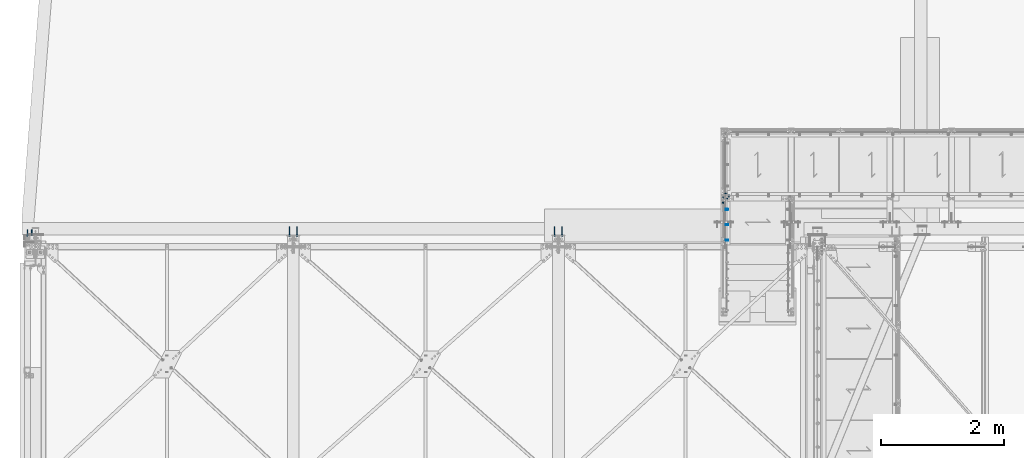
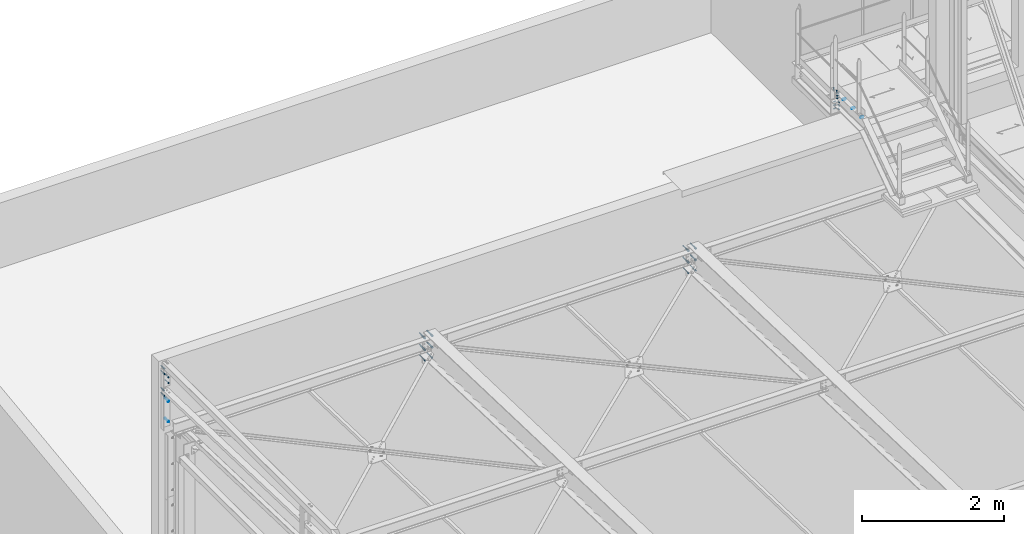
# One storey, part 179 of 362: 15 mechanical fasteners.
"""IFC2X3 building model written with IfcOpenShell, lengths in millimetres."""

from ifc_helpers import new_model, si_unit, frame, frame_2d, origin_with_axes, origin_2d_with_axis, place, context, subcontext, project, spatial, polyline, circle_curve, parameter, trimmed, segment, composite_curve, circle, outline, extrude, source, transform, mapped, material, type_object, element, save


model = new_model("IFC2X3")

# Units and contexts
model_context = context("Model", 3, precision=1e-05, world=origin_with_axes())
body_context = subcontext(model_context, "Body", "Model", "MODEL_VIEW")
ifc_project = project(units=[si_unit("LENGTHUNIT", "METRE", prefix="MILLI"), si_unit("AREAUNIT", "SQUARE_METRE"), si_unit("VOLUMEUNIT", "CUBIC_METRE"), si_unit("MASSUNIT", "GRAM", prefix="KILO"), si_unit("TIMEUNIT", "SECOND"), si_unit("PLANEANGLEUNIT", "RADIAN"), si_unit("SOLIDANGLEUNIT", "STERADIAN"), si_unit("THERMODYNAMICTEMPERATUREUNIT", "DEGREE_CELSIUS"), si_unit("LUMINOUSINTENSITYUNIT", "LUMEN")], contexts=[model_context])

# Site, building, storey
site_placement = place(None, origin_with_axes())
site = spatial("IfcSite", under=ifc_project, at=site_placement, Name="Undefined", CompositionType="ELEMENT")
building_placement = place(site_placement, origin_with_axes())
building = spatial("IfcBuilding", under=site, at=building_placement, Name="Undefined", CompositionType="ELEMENT")
storey_placement = place(building_placement, origin_with_axes())
storey = spatial("IfcBuildingStorey", under=building, at=storey_placement, Name="Undefined", CompositionType="ELEMENT", Elevation=0.0)

# Mechanical fasteners
ifc_material_1 = material(Name="8.8-SB-GALVA")
mechanical_fastener_type = type_object("IfcMechanicalFastenerType", Name="Bolt assembly")
shared_shape_1 = source(origin_with_axes(), body_context, "Body", "SweptSolid", [
    extrude(circle(Radius=7.0, at=origin_2d_with_axis()), frame((0.0, -0.100011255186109, 0.0), z_axis=(0.0, 1.0, 0.0), x_axis=(1.0, 0.0, 0.0)), (0.0, 0.0, 1.0), 12.9),
    extrude(outline(composite_curve([segment(polyline([(-7.0, 7.0), (7.0, 7.0)]), True, "CONTINUOUS"), segment(trimmed(circle_curve(frame_2d((7.0, 0.0), x_axis=(0.0, 1.0)), 7.0), [parameter(0.0)], [parameter(3.14159265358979)], False, "PARAMETER"), True, "CONTINUOUS"), segment(polyline([(7.0, -7.0), (-7.0, -7.0)]), True, "CONTINUOUS"), segment(trimmed(circle_curve(frame_2d((-7.0, 0.0), x_axis=(0.0, -1.0)), 7.0), [parameter(0.0)], [parameter(3.14159265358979)], False, "PARAMETER"), True, "DISCONTINUOUS")], self_intersect=False)), frame((0.0, -9.9, 0.0), z_axis=(0.0, 1.0, 0.0), x_axis=(1.0, 0.0, 0.0)), (0.0, 0.0, 1.0), 10.0),
    extrude(outline(polyline([(10.39230484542, 0.0), (5.19615242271, 9.00000000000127), (-5.19615242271, 9.00000000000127), (-10.39230484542, 0.0), (-5.19615242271, -9.00000000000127), (5.19615242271, -9.00000000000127), (10.39230484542, 0.0)])), frame((0.0, -21.88, 0.0), z_axis=(0.0, 1.0, 0.0), x_axis=(1.0, 0.0, 0.0)), (0.0, 0.0, 1.0), 7.92),
    extrude(circle(Radius=6.0, at=origin_2d_with_axis()), frame((0.0, -13.96, 0.0), z_axis=(0.0, 1.0, 0.0), x_axis=(1.0, 0.0, 0.0)), (0.0, 0.0, 1.0), 50.0),
    extrude(circle(Radius=10.8, at=origin_2d_with_axis()), frame((0.0, -13.96, 0.0), z_axis=(0.0, 1.0, 0.0), x_axis=(1.0, 0.0, 0.0)), (0.0, 0.0, 1.0), 3.96),
    extrude(outline(polyline([(11.5008173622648, 0.0), (5.7504086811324, 9.96000000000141), (-5.7504086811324, 9.96000000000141), (-11.5008173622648, 0.0), (-5.7504086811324, -9.96000000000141), (5.7504086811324, -9.96000000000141), (11.5008173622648, 0.0)])), frame((0.0, 12.7987010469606, 0.0), z_axis=(0.0, 1.0, 0.0), x_axis=(1.0, 0.0, 0.0)), (0.0, 0.0, 1.0), 7.92),
])
mechanical_fastener_1_placement = place(storey_placement, frame((11149.9863365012, 15914.9996531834, 8910.0), z_axis=(-1.0, 0.0, 0.0), x_axis=(0.0, 1.0, 0.0)))
element("IfcMechanicalFastener", 1, at=mechanical_fastener_1_placement, inside=storey, type_object=mechanical_fastener_type, material=ifc_material_1, Name="Bolt assembly", NominalDiameter=12.0, NominalLength=50.0, context=body_context, shape_type="MappedRepresentation", body=[
    mapped(shared_shape_1, transform((0.0, 0.0, 0.0))),
    mapped(shared_shape_1, transform((80.0, 0.0, 0.0))),
])
shared_shape_2 = source(origin_with_axes(), body_context, "Body", "SweptSolid", [
    extrude(circle(Radius=7.0, at=origin_2d_with_axis()), frame((0.0, -0.0998569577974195, 0.0), z_axis=(0.0, 1.0, 0.0), x_axis=(1.0, 0.0, 0.0)), (0.0, 0.0, 1.0), 10.1),
    extrude(circle(Radius=7.0, at=origin_2d_with_axis()), frame((0.0, -5.8999542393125, 0.0), z_axis=(0.0, 1.0, 0.0), x_axis=(1.0, 0.0, 0.0)), (0.0, 0.0, 1.0), 6.0),
    extrude(outline(polyline([(10.39230484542, 0.0), (5.19615242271, 9.00000000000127), (-5.19615242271, 9.00000000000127), (-10.39230484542, 0.0), (-5.19615242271, -9.00000000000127), (5.19615242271, -9.00000000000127), (10.39230484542, 0.0)])), frame((0.0, -13.9199542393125, 0.0), z_axis=(0.0, 1.0, 0.0), x_axis=(1.0, 0.0, 0.0)), (0.0, 0.0, 1.0), 7.92),
    extrude(circle(Radius=6.0, at=origin_2d_with_axis()), frame((0.0, -5.9999542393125, 0.0), z_axis=(0.0, 1.0, 0.0), x_axis=(1.0, 0.0, 0.0)), (0.0, 0.0, 1.0), 40.0),
    extrude(outline(polyline([(11.5008173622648, 0.0), (5.7504086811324, 9.96000000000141), (-5.7504086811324, 9.96000000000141), (-11.5008173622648, 0.0), (-5.7504086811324, -9.96000000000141), (5.7504086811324, -9.96000000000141), (11.5008173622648, 0.0)])), frame((0.0, 10.0001873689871, 0.0), z_axis=(0.0, 1.0, 0.0), x_axis=(1.0, 0.0, 0.0)), (0.0, 0.0, 1.0), 7.92),
])
mechanical_fastener_2_placement = place(storey_placement, frame((11210.0061851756, 16064.9864192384, 8570.0), z_axis=(0.0, 0.0, -1.0), x_axis=(0.0, -1.0, 0.0)))
element("IfcMechanicalFastener", 2, at=mechanical_fastener_2_placement, inside=storey, type_object=mechanical_fastener_type, material=ifc_material_1, Name="Bolt assembly", NominalDiameter=12.0, NominalLength=40.0, context=body_context, shape_type="MappedRepresentation", body=[
    mapped(shared_shape_2, transform((0.0, 0.0, 60.0))),
    mapped(shared_shape_2, transform((0.0, 0.0, 0.0))),
    mapped(shared_shape_2, transform((0.0, 0.0, -60.0))),
])
shared_shape_3 = source(origin_with_axes(), body_context, "Body", "SweptSolid", [
    extrude(circle(Radius=7.0, at=origin_2d_with_axis()), frame((0.0, -0.113418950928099, 0.0), z_axis=(0.0, 1.0, 0.0), x_axis=(1.0, 0.0, 0.0)), (0.0, 0.0, 1.0), 10.1),
    extrude(circle(Radius=7.0, at=origin_2d_with_axis()), frame((0.0, -5.8999542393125, 0.0), z_axis=(0.0, 1.0, 0.0), x_axis=(1.0, 0.0, 0.0)), (0.0, 0.0, 1.0), 6.0),
    extrude(outline(polyline([(10.39230484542, 0.0), (5.19615242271, 9.00000000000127), (-5.19615242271, 9.00000000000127), (-10.39230484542, 0.0), (-5.19615242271, -9.00000000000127), (5.19615242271, -9.00000000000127), (10.39230484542, 0.0)])), frame((0.0, -13.9199542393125, 0.0), z_axis=(0.0, 1.0, 0.0), x_axis=(1.0, 0.0, 0.0)), (0.0, 0.0, 1.0), 7.92),
    extrude(circle(Radius=6.0, at=origin_2d_with_axis()), frame((0.0, -5.9999542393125, 0.0), z_axis=(0.0, 1.0, 0.0), x_axis=(1.0, 0.0, 0.0)), (0.0, 0.0, 1.0), 40.0),
    extrude(outline(polyline([(11.5008173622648, 0.0), (5.7504086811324, 9.96000000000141), (-5.7504086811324, 9.96000000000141), (-11.5008173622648, 0.0), (-5.7504086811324, -9.96000000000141), (5.7504086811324, -9.96000000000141), (11.5008173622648, 0.0)])), frame((0.0, 9.9865810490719, 0.0), z_axis=(0.0, 1.0, 0.0), x_axis=(1.0, 0.0, 0.0)), (0.0, 0.0, 1.0), 7.92),
])
mechanical_fastener_3_placement = place(storey_placement, frame((11245.0061851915, 16029.9864192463, 8570.0), z_axis=(0.0, 0.0, 1.0), x_axis=(-1.0, 0.0, 0.0)))
element("IfcMechanicalFastener", 3, at=mechanical_fastener_3_placement, inside=storey, type_object=mechanical_fastener_type, material=ifc_material_1, Name="Bolt assembly", NominalDiameter=12.0, NominalLength=40.0, context=body_context, shape_type="MappedRepresentation", body=[
    mapped(shared_shape_3, transform((0.0, 0.0, 60.0))),
    mapped(shared_shape_3, transform((0.0, 0.0, 0.0))),
    mapped(shared_shape_3, transform((0.0, 0.0, -60.0))),
])
shared_shape_4 = source(origin_with_axes(), body_context, "Body", "SweptSolid", [
    extrude(circle(Radius=7.0, at=origin_2d_with_axis()), frame((0.0, -14.8962968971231, 0.0), z_axis=(0.0, 1.0, 0.0), x_axis=(1.0, 0.0, 0.0)), (0.0, 0.0, 1.0), 10.0),
    extrude(circle(Radius=7.0, at=origin_2d_with_axis()), frame((0.0, -5.09380520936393, 0.0), z_axis=(0.0, 1.0, 0.0), x_axis=(1.0, 0.0, 0.0)), (0.0, 0.0, 1.0), 5.1),
    extrude(outline(polyline([(10.39230484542, 0.0), (5.19615242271, 9.00000000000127), (-5.19615242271, 9.00000000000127), (-10.39230484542, 0.0), (-5.19615242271, -9.00000000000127), (5.19615242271, -9.00000000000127), (10.39230484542, 0.0)])), frame((0.0, -22.9162968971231, 0.0), z_axis=(0.0, 1.0, 0.0), x_axis=(1.0, 0.0, 0.0)), (0.0, 0.0, 1.0), 7.92),
    extrude(circle(Radius=6.0, at=origin_2d_with_axis()), frame((0.0, -14.9962968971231, 0.0), z_axis=(0.0, 1.0, 0.0), x_axis=(1.0, 0.0, 0.0)), (0.0, 0.0, 1.0), 30.0),
    extrude(outline(polyline([(11.5008173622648, 0.0), (5.7504086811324, 9.96000000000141), (-5.7504086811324, 9.96000000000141), (-11.5008173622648, 0.0), (-5.7504086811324, -9.96000000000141), (5.7504086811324, -9.96000000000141), (11.5008173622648, 0.0)])), frame((0.0, 0.00619479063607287, 0.0), z_axis=(0.0, 1.0, 0.0), x_axis=(1.0, 0.0, 0.0)), (0.0, 0.0, 1.0), 7.92),
])
mechanical_fastener_4_placement = place(storey_placement, frame((11214.9999903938, 15555.0058468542, 8820.0), z_axis=(0.0, 1.0, 0.0), x_axis=(0.0, 0.0, 1.0)))
element("IfcMechanicalFastener", 4, at=mechanical_fastener_4_placement, inside=storey, type_object=mechanical_fastener_type, material=ifc_material_1, Name="Bolt assembly", NominalDiameter=12.0, NominalLength=30.0, context=body_context, shape_type="MappedRepresentation", body=[
    mapped(shared_shape_4, transform((0.0, 0.0, -250.0))),
    mapped(shared_shape_4, transform((0.0, 0.0, 0.0))),
    mapped(shared_shape_4, transform((0.0, 0.0, 250.0))),
])
shared_shape_5 = source(origin_with_axes(), body_context, "Body", "SweptSolid", [
    extrude(circle(Radius=7.0, at=origin_2d_with_axis()), frame((0.0, -0.0962673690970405, 0.0), z_axis=(0.0, 1.0, 0.0), x_axis=(1.0, 0.0, 0.0)), (0.0, 0.0, 1.0), 10.1),
    extrude(outline(composite_curve([segment(polyline([(7.0, 7.0), (7.0, -7.0)]), True, "CONTINUOUS"), segment(trimmed(circle_curve(frame_2d((0.0, -7.0), x_axis=(1.0, 0.0)), 7.0), [parameter(0.0)], [parameter(3.14159265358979)], False, "PARAMETER"), True, "CONTINUOUS"), segment(polyline([(-7.0, -7.0), (-7.0, 7.0)]), True, "CONTINUOUS"), segment(trimmed(circle_curve(frame_2d((0.0, 7.0), x_axis=(-1.0, 0.0)), 7.0), [parameter(0.0)], [parameter(3.14159265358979)], False, "PARAMETER"), True, "DISCONTINUOUS")], self_intersect=False)), frame((0.0, -7.9, 0.0), z_axis=(0.0, 1.0, 0.0), x_axis=(1.0, 0.0, 0.0)), (0.0, 0.0, 1.0), 8.0),
    extrude(outline(polyline([(10.39230484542, 0.0), (5.19615242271, 9.00000000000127), (-5.19615242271, 9.00000000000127), (-10.39230484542, 0.0), (-5.19615242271, -9.00000000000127), (5.19615242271, -9.00000000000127), (10.39230484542, 0.0)])), frame((0.0, -19.88, 0.0), z_axis=(0.0, 1.0, 0.0), x_axis=(1.0, 0.0, 0.0)), (0.0, 0.0, 1.0), 7.92),
    extrude(circle(Radius=6.0, at=origin_2d_with_axis()), frame((0.0, -11.96, 0.0), z_axis=(0.0, 1.0, 0.0), x_axis=(1.0, 0.0, 0.0)), (0.0, 0.0, 1.0), 40.0),
    extrude(circle(Radius=10.8, at=origin_2d_with_axis()), frame((0.0, -11.96, 0.0), z_axis=(0.0, 1.0, 0.0), x_axis=(1.0, 0.0, 0.0)), (0.0, 0.0, 1.0), 3.96),
    extrude(outline(polyline([(11.5008173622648, 0.0), (5.7504086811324, 9.96000000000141), (-5.7504086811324, 9.96000000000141), (-11.5008173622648, 0.0), (-5.7504086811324, -9.96000000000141), (5.7504086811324, -9.96000000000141), (11.5008173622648, 0.0)])), frame((0.0, 10.0037326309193, 0.0), z_axis=(0.0, 1.0, 0.0), x_axis=(1.0, 0.0, 0.0)), (0.0, 0.0, 1.0), 7.92),
])
mechanical_fastener_5_placement = place(storey_placement, frame((11210.006186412, 15980.0058471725, 8820.0), z_axis=(0.0, 1.0, 0.0), x_axis=(0.0, 0.0, -1.0)))
element("IfcMechanicalFastener", 5, at=mechanical_fastener_5_placement, inside=storey, type_object=mechanical_fastener_type, material=ifc_material_1, Name="Bolt assembly", NominalDiameter=12.0, NominalLength=40.0, context=body_context, shape_type="MappedRepresentation", body=[
    mapped(shared_shape_5, transform((0.0, 0.0, 0.0))),
    mapped(shared_shape_5, transform((40.0, 0.0, 0.0))),
    mapped(shared_shape_5, transform((80.0, 0.0, 0.0))),
])
ifc_material_2 = material(Name="HILTI-HSA-R")
shared_shape_6 = source(origin_with_axes(), body_context, "Body", "SweptSolid", [
    extrude(circle(Radius=7.0, at=origin_2d_with_axis()), frame((0.0, -5.00013005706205, 0.0), z_axis=(0.0, 1.0, 0.0), x_axis=(1.0, 0.0, 0.0)), (0.0, 0.0, 1.0), 5.1),
    extrude(outline(polyline([(10.39230484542, 0.0), (5.19615242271, 9.00000000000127), (-5.19615242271, 9.00000000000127), (-10.39230484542, 0.0), (-5.19615242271, -9.00000000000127), (5.19615242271, -9.00000000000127), (10.39230484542, 0.0)])), frame((0.0, -12.9201300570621, 0.0), z_axis=(0.0, 1.0, 0.0), x_axis=(1.0, 0.0, 0.0)), (0.0, 0.0, 1.0), 7.92),
    extrude(circle(Radius=6.0, at=origin_2d_with_axis()), frame((0.0, -5.00013005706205, 0.0), z_axis=(0.0, 1.0, 0.0), x_axis=(1.0, 0.0, 0.0)), (0.0, 0.0, 1.0), 89.2),
    extrude(outline(polyline([(11.5008173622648, 0.0), (5.7504086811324, 9.96000000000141), (-5.7504086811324, 9.96000000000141), (-11.5008173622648, 0.0), (-5.7504086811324, -9.96000000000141), (5.7504086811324, -9.96000000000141), (11.5008173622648, 0.0)])), frame((0.0, -0.000130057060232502, 0.0), z_axis=(0.0, 1.0, 0.0), x_axis=(1.0, 0.0, 0.0)), (0.0, 0.0, 1.0), 7.92),
])
mechanical_fastener_6_placement = place(storey_placement, frame((-60.0000006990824, 15390.0001310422, 8180.0000292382), z_axis=(0.0, 0.0, -1.0), x_axis=(-1.0, 0.0, 0.0)))
element("IfcMechanicalFastener", 6, at=mechanical_fastener_6_placement, inside=storey, type_object=mechanical_fastener_type, material=ifc_material_2, Name="Bolt assembly", NominalDiameter=12.0, NominalLength=89.1999969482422, context=body_context, shape_type="MappedRepresentation", body=[
    mapped(shared_shape_6, transform((0.0, 0.0, -50.0))),
    mapped(shared_shape_6, transform((0.0, 0.0, 50.0))),
])
mechanical_fastener_7_placement = place(storey_placement, frame((-59.999999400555, 15390.0001310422, 7640.00002922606), z_axis=(0.0, 0.0, -1.0), x_axis=(-1.0, 0.0, 0.0)))
element("IfcMechanicalFastener", 7, at=mechanical_fastener_7_placement, inside=storey, type_object=mechanical_fastener_type, material=ifc_material_2, Name="Bolt assembly", NominalDiameter=12.0, NominalLength=89.1999969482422, context=body_context, shape_type="MappedRepresentation", body=[
    mapped(shared_shape_6, transform((0.0, 0.0, -175.0))),
    mapped(shared_shape_6, transform((0.0, 0.0, 175.0))),
])
shared_shape_7 = source(origin_with_axes(), body_context, "Body", "SweptSolid", [
    extrude(circle(Radius=7.0, at=origin_2d_with_axis()), frame((0.0, -5.9999542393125, 0.0), z_axis=(0.0, 1.0, 0.0), x_axis=(1.0, 0.0, 0.0)), (0.0, 0.0, 1.0), 6.1),
    extrude(outline(polyline([(10.39230484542, 0.0), (5.19615242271, 9.00000000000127), (-5.19615242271, 9.00000000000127), (-10.39230484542, 0.0), (-5.19615242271, -9.00000000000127), (5.19615242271, -9.00000000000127), (10.39230484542, 0.0)])), frame((0.0, -13.9199542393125, 0.0), z_axis=(0.0, 1.0, 0.0), x_axis=(1.0, 0.0, 0.0)), (0.0, 0.0, 1.0), 7.92),
    extrude(circle(Radius=6.0, at=origin_2d_with_axis()), frame((0.0, -5.9999542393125, 0.0), z_axis=(0.0, 1.0, 0.0), x_axis=(1.0, 0.0, 0.0)), (0.0, 0.0, 1.0), 89.2),
    extrude(outline(polyline([(11.5008173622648, 0.0), (5.7504086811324, 9.96000000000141), (-5.7504086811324, 9.96000000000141), (-11.5008173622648, 0.0), (-5.7504086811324, -9.96000000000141), (5.7504086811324, -9.96000000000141), (11.5008173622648, 0.0)])), frame((0.0, 0.0, 0.0), z_axis=(0.0, 1.0, 0.0), x_axis=(1.0, 0.0, 0.0)), (0.0, 0.0, 1.0), 7.92),
])
mechanical_fastener_8_placement = place(storey_placement, frame((-129.999999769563, 15390.0, 7932.48302366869), z_axis=(-1.0, 0.0, 0.0), x_axis=(0.0, 0.0, 1.0)))
element("IfcMechanicalFastener", 8, at=mechanical_fastener_8_placement, inside=storey, type_object=mechanical_fastener_type, material=ifc_material_2, Name="Bolt assembly", NominalDiameter=12.0, NominalLength=89.1999969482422, context=body_context, shape_type="MappedRepresentation", body=[
    mapped(shared_shape_7, transform((0.0, 0.0, 0.0))),
    mapped(shared_shape_7, transform((90.0, 0.0, 0.0))),
])
shared_shape_8 = source(origin_with_axes(), body_context, "Body", "SweptSolid", [
    extrude(circle(Radius=7.0, at=origin_2d_with_axis()), frame((0.0, -10.0000010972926, 0.0), z_axis=(0.0, 1.0, 0.0), x_axis=(1.0, 0.0, 0.0)), (0.0, 0.0, 1.0), 10.1),
    extrude(outline(polyline([(10.39230484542, 0.0), (5.19615242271, 9.00000000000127), (-5.19615242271, 9.00000000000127), (-10.39230484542, 0.0), (-5.19615242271, -9.00000000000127), (5.19615242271, -9.00000000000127), (10.39230484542, 0.0)])), frame((0.0, -17.92, 0.0), z_axis=(0.0, 1.0, 0.0), x_axis=(1.0, 0.0, 0.0)), (0.0, 0.0, 1.0), 7.92),
    extrude(circle(Radius=6.0, at=origin_2d_with_axis()), frame((0.0, -10.0000010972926, 0.0), z_axis=(0.0, 1.0, 0.0), x_axis=(1.0, 0.0, 0.0)), (0.0, 0.0, 1.0), 89.2),
    extrude(outline(polyline([(11.5008173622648, 0.0), (5.7504086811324, 9.96000000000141), (-5.7504086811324, 9.96000000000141), (-11.5008173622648, 0.0), (-5.7504086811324, -9.96000000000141), (5.7504086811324, -9.96000000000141), (11.5008173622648, 0.0)])), frame((0.0, 0.0, 0.0), z_axis=(0.0, 1.0, 0.0), x_axis=(1.0, 0.0, 0.0)), (0.0, 0.0, 1.0), 7.92),
])
mechanical_fastener_9_placement = place(storey_placement, frame((-129.997016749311, 15390.0000000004, 8314.99702093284), z_axis=(-1.0, 0.0, 0.0), x_axis=(0.0, 0.0, 1.0)))
element("IfcMechanicalFastener", 9, at=mechanical_fastener_9_placement, inside=storey, type_object=mechanical_fastener_type, material=ifc_material_2, Name="Bolt assembly", NominalDiameter=12.0, NominalLength=89.1999969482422, context=body_context, shape_type="MappedRepresentation", body=[
    mapped(shared_shape_8, transform((0.0, 0.0, 0.0))),
    mapped(shared_shape_8, transform((90.0, 0.0, 0.0))),
])
ifc_material_3 = material(Name="HILTI-HST-R")
shared_shape_9 = source(origin_with_axes(), body_context, "Body", "SweptSolid", [
    extrude(circle(Radius=9.0, at=origin_2d_with_axis()), frame((0.0, -9.99987141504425, 0.0), z_axis=(0.0, 1.0, 0.0), x_axis=(1.0, 0.0, 0.0)), (0.0, 0.0, 1.0), 10.1),
    extrude(outline(polyline([(13.85640646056, 0.0), (6.92820323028, 12.0000000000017), (-6.92820323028, 12.0000000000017), (-13.85640646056, 0.0), (-6.92820323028, -12.0000000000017), (6.92820323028, -12.0000000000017), (13.85640646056, 0.0)])), frame((0.0, -20.559881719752, 0.0), z_axis=(0.0, 1.0, 0.0), x_axis=(1.0, 0.0, 0.0)), (0.0, 0.0, 1.0), 10.56),
    extrude(circle(Radius=8.0, at=origin_2d_with_axis()), frame((0.0, -9.99987141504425, 0.0), z_axis=(0.0, 1.0, 0.0), x_axis=(1.0, 0.0, 0.0)), (0.0, 0.0, 1.0), 146.2),
    extrude(outline(polyline([(15.3344231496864, 0.0), (7.6672115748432, 13.2800000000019), (-7.6672115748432, 13.2800000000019), (-15.3344231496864, 0.0), (-7.6672115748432, -13.2800000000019), (7.6672115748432, -13.2800000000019), (15.3344231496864, 0.0)])), frame((0.0, 0.000125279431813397, 0.0), z_axis=(0.0, 1.0, 0.0), x_axis=(1.0, 0.0, 0.0)), (0.0, 0.0, 1.0), 10.56),
])
mechanical_fastener_10_placement = place(storey_placement, frame((8480.00000000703, 15389.9998817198, 7061.12760916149), z_axis=(-1.0, 0.0, 0.0), x_axis=(0.0, 0.0, 1.0)))
element("IfcMechanicalFastener", 10, at=mechanical_fastener_10_placement, inside=storey, type_object=mechanical_fastener_type, material=ifc_material_3, Name="Bolt assembly", NominalDiameter=16.0, NominalLength=146.199996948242, context=body_context, shape_type="MappedRepresentation", body=[
    mapped(shared_shape_9, transform((0.0, 0.0, -60.0))),
    mapped(shared_shape_9, transform((0.0, 0.0, 60.0))),
])
for number, where, z_axis, x_axis, name in (
    (11, (8420.0, 15389.9998771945, 7343.28139518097), (0.0, 0.0, 1.0), (1.0, 0.0, 0.0), "Bolt assembly"),
    (12, (8540.0, 15389.9998771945, 7343.28139518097), (0.0, 0.0, -1.0), (-1.0, 0.0, 0.0), "Bolt assembly"),
):
    element("IfcMechanicalFastener", number, at=place(storey_placement, frame(where, z_axis=z_axis, x_axis=x_axis)), inside=storey, type_object=mechanical_fastener_type, material=ifc_material_3, Name=name, NominalDiameter=16.0, NominalLength=146.199996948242, context=body_context, shape_type="MappedRepresentation", body=[
        mapped(shared_shape_9, transform((0.0, 0.0, -100.0))),
        mapped(shared_shape_9, transform((0.0, 0.0, 100.0))),
    ])
mechanical_fastener_11_placement = place(storey_placement, frame((4180.00000000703, 15389.9998817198, 7061.12760916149), z_axis=(-1.0, 0.0, 0.0), x_axis=(0.0, 0.0, 1.0)))
element("IfcMechanicalFastener", 13, at=mechanical_fastener_11_placement, inside=storey, type_object=mechanical_fastener_type, material=ifc_material_3, Name="Bolt assembly", NominalDiameter=16.0, NominalLength=146.199996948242, context=body_context, shape_type="MappedRepresentation", body=[
    mapped(shared_shape_9, transform((0.0, 0.0, -60.0))),
    mapped(shared_shape_9, transform((0.0, 0.0, 60.0))),
])
for number, where, z_axis, x_axis, name in (
    (14, (4240.0, 15389.9998771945, 7343.28139518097), (0.0, 0.0, -1.0), (-1.0, 0.0, 0.0), "Bolt assembly"),
    (15, (4120.0, 15389.9998771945, 7343.28139518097), (0.0, 0.0, 1.0), (1.0, 0.0, 0.0), "Bolt assembly"),
):
    element("IfcMechanicalFastener", number, at=place(storey_placement, frame(where, z_axis=z_axis, x_axis=x_axis)), inside=storey, type_object=mechanical_fastener_type, material=ifc_material_3, Name=name, NominalDiameter=16.0, NominalLength=146.199996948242, context=body_context, shape_type="MappedRepresentation", body=[
        mapped(shared_shape_9, transform((0.0, 0.0, -100.0))),
        mapped(shared_shape_9, transform((0.0, 0.0, 100.0))),
    ])

save(model, "model.ifc")
